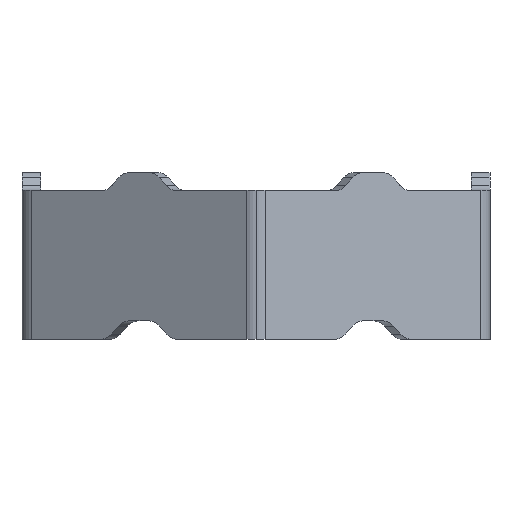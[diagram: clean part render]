
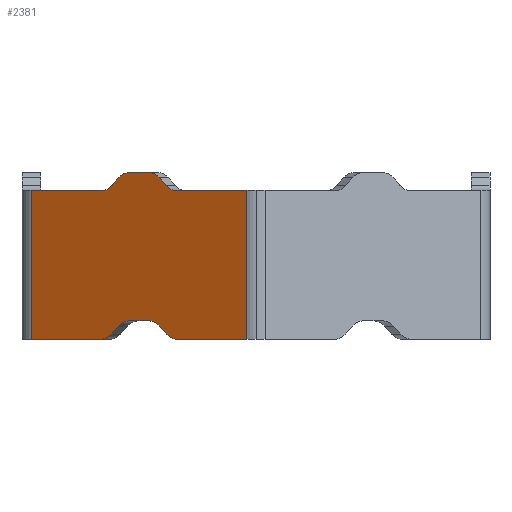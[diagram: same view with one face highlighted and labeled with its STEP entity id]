
A CAD part, left-side view. The second image highlights one B-rep face of the part: STEP entity #2381.
In plain terms, the highlighted planar face has unit normal (-0.866, 0.5, 0).
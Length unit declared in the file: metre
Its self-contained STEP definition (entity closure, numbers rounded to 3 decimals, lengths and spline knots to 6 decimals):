
#43=PLANE('',#2580);
#100=LINE('',#3558,#342);
#108=LINE('',#3577,#350);
#112=LINE('',#3588,#354);
#116=LINE('',#3597,#358);
#120=LINE('',#3606,#362);
#129=LINE('',#3628,#371);
#133=LINE('',#3641,#375);
#234=LINE('',#3940,#476);
#235=LINE('',#3945,#477);
#236=LINE('',#3948,#478);
#237=LINE('',#3952,#479);
#238=LINE('',#3956,#480);
#342=VECTOR('',#2795,1.);
#350=VECTOR('',#2809,1.);
#354=VECTOR('',#2819,1.);
#358=VECTOR('',#2825,1.);
#362=VECTOR('',#2831,1.);
#371=VECTOR('',#2844,1.);
#375=VECTOR('',#2854,1.);
#476=VECTOR('',#3095,1.);
#477=VECTOR('',#3104,1.);
#478=VECTOR('',#3107,1.);
#479=VECTOR('',#3110,1.);
#480=VECTOR('',#3113,1.);
#808=ORIENTED_EDGE('',*,*,#1522,.T.);
#809=ORIENTED_EDGE('',*,*,#1372,.F.);
#810=ORIENTED_EDGE('',*,*,#1523,.T.);
#811=ORIENTED_EDGE('',*,*,#1366,.T.);
#812=ORIENTED_EDGE('',*,*,#1524,.T.);
#813=ORIENTED_EDGE('',*,*,#1348,.T.);
#814=ORIENTED_EDGE('',*,*,#1525,.T.);
#815=ORIENTED_EDGE('',*,*,#1356,.T.);
#816=ORIENTED_EDGE('',*,*,#1526,.T.);
#817=ORIENTED_EDGE('',*,*,#1352,.T.);
#818=ORIENTED_EDGE('',*,*,#1527,.T.);
#819=ORIENTED_EDGE('',*,*,#1332,.T.);
#820=ORIENTED_EDGE('',*,*,#1528,.T.);
#821=ORIENTED_EDGE('',*,*,#1342,.F.);
#822=ORIENTED_EDGE('',*,*,#1529,.T.);
#823=ORIENTED_EDGE('',*,*,#1530,.F.);
#824=ORIENTED_EDGE('',*,*,#1531,.F.);
#825=ORIENTED_EDGE('',*,*,#1532,.F.);
#826=ORIENTED_EDGE('',*,*,#1533,.F.);
#827=ORIENTED_EDGE('',*,*,#1534,.F.);
#1332=EDGE_CURVE('',#1702,#1703,#100,.T.);
#1342=EDGE_CURVE('',#1709,#1710,#108,.T.);
#1348=EDGE_CURVE('',#1714,#1715,#112,.T.);
#1352=EDGE_CURVE('',#1718,#1719,#116,.T.);
#1356=EDGE_CURVE('',#1722,#1723,#120,.T.);
#1366=EDGE_CURVE('',#1733,#1732,#129,.T.);
#1372=EDGE_CURVE('',#1738,#1739,#133,.T.);
#1522=EDGE_CURVE('',#1866,#1739,#1978,.T.);
#1523=EDGE_CURVE('',#1738,#1733,#234,.T.);
#1524=EDGE_CURVE('',#1732,#1714,#1979,.F.);
#1525=EDGE_CURVE('',#1715,#1722,#1980,.T.);
#1526=EDGE_CURVE('',#1723,#1718,#1981,.T.);
#1527=EDGE_CURVE('',#1719,#1702,#1982,.F.);
#1528=EDGE_CURVE('',#1703,#1710,#235,.F.);
#1529=EDGE_CURVE('',#1709,#1867,#1983,.T.);
#1530=EDGE_CURVE('',#1868,#1867,#236,.T.);
#1531=EDGE_CURVE('',#1869,#1868,#1984,.T.);
#1532=EDGE_CURVE('',#1870,#1869,#237,.T.);
#1533=EDGE_CURVE('',#1871,#1870,#1985,.T.);
#1534=EDGE_CURVE('',#1866,#1871,#238,.T.);
#1702=VERTEX_POINT('',#3559);
#1703=VERTEX_POINT('',#3560);
#1709=VERTEX_POINT('',#3576);
#1710=VERTEX_POINT('',#3578);
#1714=VERTEX_POINT('',#3589);
#1715=VERTEX_POINT('',#3590);
#1718=VERTEX_POINT('',#3598);
#1719=VERTEX_POINT('',#3599);
#1722=VERTEX_POINT('',#3607);
#1723=VERTEX_POINT('',#3608);
#1732=VERTEX_POINT('',#3627);
#1733=VERTEX_POINT('',#3629);
#1738=VERTEX_POINT('',#3640);
#1739=VERTEX_POINT('',#3642);
#1866=VERTEX_POINT('',#3939);
#1867=VERTEX_POINT('',#3947);
#1868=VERTEX_POINT('',#3949);
#1869=VERTEX_POINT('',#3951);
#1870=VERTEX_POINT('',#3953);
#1871=VERTEX_POINT('',#3955);
#1978=CIRCLE('',#2581,0.003302);
#1979=CIRCLE('',#2582,0.003175);
#1980=CIRCLE('',#2583,0.003175);
#1981=CIRCLE('',#2584,0.003175);
#1982=CIRCLE('',#2585,0.003175);
#1983=CIRCLE('',#2586,0.003302);
#1984=CIRCLE('',#2587,0.003048);
#1985=CIRCLE('',#2588,0.003048);
#2075=EDGE_LOOP('',(#808,#809,#810,#811,#812,#813,#814,#815,#816,#817,#818,
#819,#820,#821,#822,#823,#824,#825,#826,#827));
#2197=FACE_BOUND('',#2075,.T.);
#2381=ADVANCED_FACE('',(#2197),#43,.F.);
#2580=AXIS2_PLACEMENT_3D('',#3937,#3091,#3092);
#2581=AXIS2_PLACEMENT_3D('',#3938,#3093,#3094);
#2582=AXIS2_PLACEMENT_3D('',#3941,#3096,#3097);
#2583=AXIS2_PLACEMENT_3D('',#3942,#3098,#3099);
#2584=AXIS2_PLACEMENT_3D('',#3943,#3100,#3101);
#2585=AXIS2_PLACEMENT_3D('',#3944,#3102,#3103);
#2586=AXIS2_PLACEMENT_3D('',#3946,#3105,#3106);
#2587=AXIS2_PLACEMENT_3D('',#3950,#3108,#3109);
#2588=AXIS2_PLACEMENT_3D('',#3954,#3111,#3112);
#2795=DIRECTION('',(-0.5,-0.866,0.));
#2809=DIRECTION('',(-0.5,-0.866,0.));
#2819=DIRECTION('',(-0.354,-0.612,0.707));
#2825=DIRECTION('',(-0.354,-0.612,-0.707));
#2831=DIRECTION('',(-0.5,-0.866,0.));
#2844=DIRECTION('',(-0.5,-0.866,0.));
#2854=DIRECTION('',(-0.5,-0.866,0.));
#3091=DIRECTION('',(0.866,-0.5,0.));
#3092=DIRECTION('',(0.5,0.866,0.));
#3093=DIRECTION('',(0.866,-0.5,0.));
#3094=DIRECTION('',(0.,0.,-1.));
#3095=DIRECTION('',(0.,0.,-1.));
#3096=DIRECTION('',(0.866,-0.5,0.));
#3097=DIRECTION('',(0.5,0.866,0.));
#3098=DIRECTION('',(0.866,-0.5,0.));
#3099=DIRECTION('',(0.5,0.866,0.));
#3100=DIRECTION('',(0.866,-0.5,0.));
#3101=DIRECTION('',(0.5,0.866,0.));
#3102=DIRECTION('',(0.866,-0.5,0.));
#3103=DIRECTION('',(0.5,0.866,0.));
#3104=DIRECTION('',(0.,0.,-1.));
#3105=DIRECTION('',(0.866,-0.5,0.));
#3106=DIRECTION('',(0.,0.,-1.));
#3107=DIRECTION('',(-0.354,-0.612,-0.707));
#3108=DIRECTION('',(0.866,-0.5,0.));
#3109=DIRECTION('',(0.,0.,-1.));
#3110=DIRECTION('',(-0.5,-0.866,0.));
#3111=DIRECTION('',(0.866,-0.5,0.));
#3112=DIRECTION('',(0.,0.,-1.));
#3113=DIRECTION('',(-0.354,-0.612,0.707));
#3558=CARTESIAN_POINT('',(-0.034535,0.019939,0.));
#3559=CARTESIAN_POINT('',(-0.038368,0.013301,0.));
#3560=CARTESIAN_POINT('',(-0.045131,0.001588,0.));
#3576=CARTESIAN_POINT('',(-0.037914,0.014086,0.0254));
#3577=CARTESIAN_POINT('',(-0.034535,0.019939,0.0254));
#3578=CARTESIAN_POINT('',(-0.045131,0.001588,0.0254));
#3588=CARTESIAN_POINT('',(-0.032154,0.024063,0.001588));
#3589=CARTESIAN_POINT('',(-0.031825,0.024633,0.00093));
#3590=CARTESIAN_POINT('',(-0.032483,0.023494,0.002245));
#3597=CARTESIAN_POINT('',(-0.036917,0.015815,0.001588));
#3598=CARTESIAN_POINT('',(-0.036588,0.016384,0.002245));
#3599=CARTESIAN_POINT('',(-0.037245,0.015245,0.00093));
#3606=CARTESIAN_POINT('',(-0.034535,0.019939,0.003175));
#3607=CARTESIAN_POINT('',(-0.033605,0.02155,0.003175));
#3608=CARTESIAN_POINT('',(-0.035465,0.018328,0.003175));
#3627=CARTESIAN_POINT('',(-0.030703,0.026577,0.));
#3628=CARTESIAN_POINT('',(-0.034535,0.019939,0.));
#3629=CARTESIAN_POINT('',(-0.02394,0.038291,0.));
#3640=CARTESIAN_POINT('',(-0.02394,0.038291,0.0254));
#3641=CARTESIAN_POINT('',(-0.034535,0.019939,0.0254));
#3642=CARTESIAN_POINT('',(-0.031156,0.025792,0.0254));
#3937=CARTESIAN_POINT('',(-0.034535,0.019939,0.0254));
#3938=CARTESIAN_POINT('',(-0.030703,0.026577,0.028575));
#3939=CARTESIAN_POINT('',(-0.03187,0.024555,0.02624));
#3940=CARTESIAN_POINT('',(-0.02394,0.038291,0.0254));
#3941=CARTESIAN_POINT('',(-0.030703,0.026577,0.003175));
#3942=CARTESIAN_POINT('',(-0.033605,0.02155,0.));
#3943=CARTESIAN_POINT('',(-0.035465,0.018328,0.));
#3944=CARTESIAN_POINT('',(-0.038368,0.013301,0.003175));
#3945=CARTESIAN_POINT('',(-0.045131,0.001588,0.0254));
#3946=CARTESIAN_POINT('',(-0.038368,0.013301,0.028575));
#3947=CARTESIAN_POINT('',(-0.0372,0.015323,0.02624));
#3948=CARTESIAN_POINT('',(-0.036872,0.015892,0.026898));
#3949=CARTESIAN_POINT('',(-0.036543,0.016462,0.027555));
#3950=CARTESIAN_POINT('',(-0.035465,0.018328,0.0254));
#3951=CARTESIAN_POINT('',(-0.035465,0.018328,0.028448));
#3952=CARTESIAN_POINT('',(-0.034535,0.019939,0.028448));
#3953=CARTESIAN_POINT('',(-0.033605,0.02155,0.028448));
#3954=CARTESIAN_POINT('',(-0.033605,0.02155,0.0254));
#3955=CARTESIAN_POINT('',(-0.032528,0.023416,0.027555));
#3956=CARTESIAN_POINT('',(-0.032199,0.023986,0.026898));
